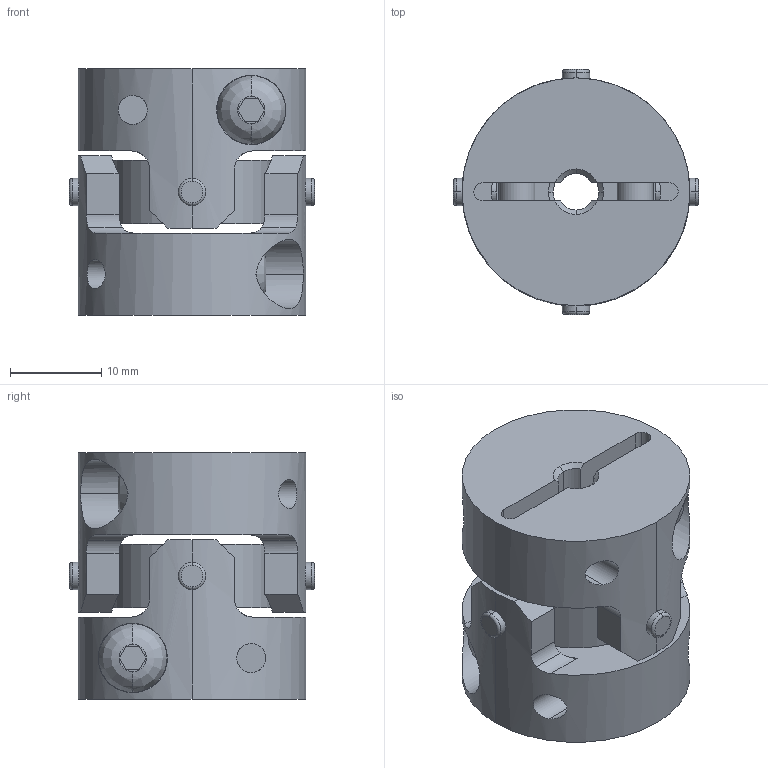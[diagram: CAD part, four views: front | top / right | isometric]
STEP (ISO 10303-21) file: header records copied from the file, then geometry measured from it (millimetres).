
FILE_DESCRIPTION((''),'2;1');
FILE_NAME('UA-25C-4×5.stp','2013-11-12T14:16:39',(''),(''),'AutoCAD STEP 2000i','AutoCAD 2000i',', , ');
FILE_SCHEMA(('CONFIG_CONTROL_DESIGN'));
Length unit declared in the file: millimetre
Products named in the file (6): UA-25C-5×5; 忣兜1; UA-2502-D05-1; BTN-M4; UA-2502-D05; UA25-SEN
Assembly tree (6 placements, depth 3):
  UA-25C-5×5
    忣兜1
    UA-2502-D05-1
      BTN-M4
    UA-2502-D05
      BTN-M4
    UA25-SEN
Bounding box: 26.89 x 26.89 x 27 mm (x, y, z)
Volume: 9534.9 mm3; surface area: 6511.5 mm2
Topology: 1 solids, 1 shells, 206 faces, 554 edges, 364 vertices
Faces by surface type: cylinder 96, plane 78, cone 16, bspline 8, torus 8
Entity records: 8291 total; most frequent: CARTESIAN_POINT 2975, ORIENTED_EDGE 1108, DIRECTION 1064, EDGE_CURVE 554, AXIS2_PLACEMENT_3D 409, VERTEX_POINT 364, VECTOR 246, LINE 246
